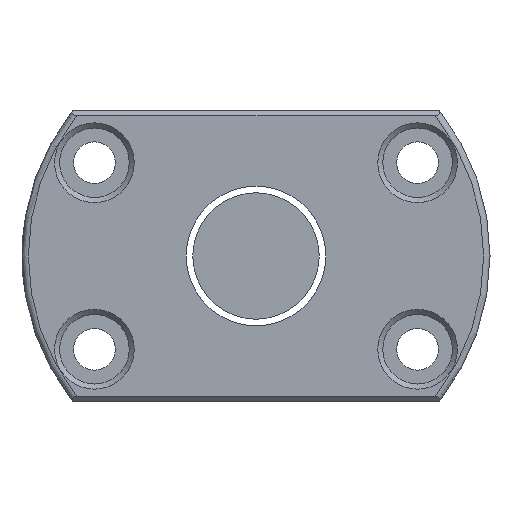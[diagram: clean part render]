
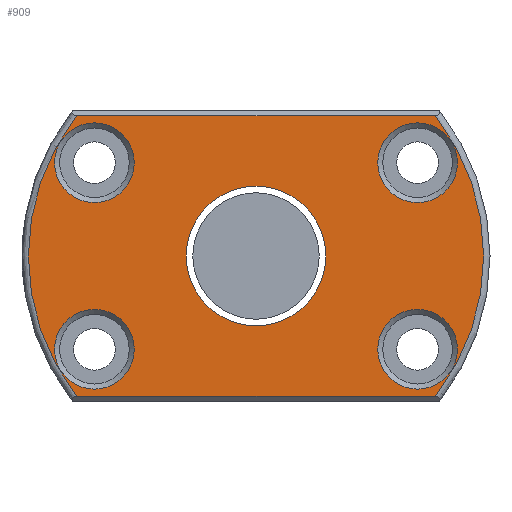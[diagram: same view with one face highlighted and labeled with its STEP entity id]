
A CAD part, left-side view. The second image highlights one B-rep face of the part: STEP entity #909.
In plain terms, the highlighted planar face has unit normal (-1, 0, 0).
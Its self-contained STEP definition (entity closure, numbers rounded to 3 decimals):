
#18 = CARTESIAN_POINT ( 'NONE',  ( -70., 0., -11.05 ) ) ;
#58 = CIRCLE ( 'NONE', #1315, 6.3 ) ;
#232 = DIRECTION ( 'NONE',  ( -1., 0., 0. ) ) ;
#253 = CARTESIAN_POINT ( 'NONE',  ( -70., -28.34, -22.2 ) ) ;
#258 = DIRECTION ( 'NONE',  ( 1., 0., 0. ) ) ;
#304 = EDGE_CURVE ( 'NONE', #1916, #1916, #1806, .T. ) ;
#424 = DIRECTION ( 'NONE',  ( 0., 0., 1. ) ) ;
#446 = CARTESIAN_POINT ( 'NONE',  ( -70., -27.695, -22.2 ) ) ;
#447 = DIRECTION ( 'NONE',  ( 1., 0., 0. ) ) ;
#477 = CARTESIAN_POINT ( 'NONE',  ( -70., 0., 0. ) ) ;
#478 = LINE ( 'NONE', #446, #1709 ) ;
#488 = CARTESIAN_POINT ( 'NONE',  ( -70., 25.548, 21.05 ) ) ;
#492 = CARTESIAN_POINT ( 'NONE',  ( -70., 27.695, 22.2 ) ) ;
#546 = CARTESIAN_POINT ( 'NONE',  ( -70., 28.34, 22.2 ) ) ;
#573 = CARTESIAN_POINT ( 'NONE',  ( -70., -28.34, 22.2 ) ) ;
#581 = VECTOR ( 'NONE', #1494, 1000. ) ;
#626 = CARTESIAN_POINT ( 'NONE',  ( -70., -25.548, -8.45 ) ) ;
#650 = PLANE ( 'NONE',  #1175 ) ;
#686 = FACE_BOUND ( 'NONE', #1072, .T. ) ;
#724 = VERTEX_POINT ( 'NONE', #546 ) ;
#732 = LINE ( 'NONE', #492, #581 ) ;
#814 = DIRECTION ( 'NONE',  ( 0., 0., 1. ) ) ;
#824 = ORIENTED_EDGE ( 'NONE', *, *, #2245, .T. ) ;
#887 = FACE_BOUND ( 'NONE', #1496, .T. ) ;
#909 = ADVANCED_FACE ( 'NONE', ( #943, #887, #1904, #686, #3229, #1939 ), #650, .T. ) ;
#938 = CARTESIAN_POINT ( 'NONE',  ( -70., -25.548, 21.05 ) ) ;
#943 = FACE_OUTER_BOUND ( 'NONE', #1294, .T. ) ;
#946 = CIRCLE ( 'NONE', #995, 11.05 ) ;
#973 = VERTEX_POINT ( 'NONE', #488 ) ;
#995 = AXIS2_PLACEMENT_3D ( 'NONE', #477, #258, #3029 ) ;
#996 = ORIENTED_EDGE ( 'NONE', *, *, #1597, .T. ) ;
#1007 = EDGE_CURVE ( 'NONE', #1661, #1413, #478, .T. ) ;
#1015 = DIRECTION ( 'NONE',  ( 1., 0., 0. ) ) ;
#1040 = CIRCLE ( 'NONE', #3219, 36. ) ;
#1072 = EDGE_LOOP ( 'NONE', ( #1814 ) ) ;
#1099 = CIRCLE ( 'NONE', #1213, 6.3 ) ;
#1175 = AXIS2_PLACEMENT_3D ( 'NONE', #2972, #232, #424 ) ;
#1213 = AXIS2_PLACEMENT_3D ( 'NONE', #1416, #1623, #3162 ) ;
#1215 = EDGE_CURVE ( 'NONE', #2184, #2184, #1652, .T. ) ;
#1234 = ORIENTED_EDGE ( 'NONE', *, *, #2384, .T. ) ;
#1263 = CIRCLE ( 'NONE', #2645, 36. ) ;
#1290 = EDGE_LOOP ( 'NONE', ( #824 ) ) ;
#1294 = EDGE_LOOP ( 'NONE', ( #996, #1234, #1716, #2646 ) ) ;
#1315 = AXIS2_PLACEMENT_3D ( 'NONE', #2046, #1015, #3097 ) ;
#1387 = CARTESIAN_POINT ( 'NONE',  ( -70., 25.548, -8.45 ) ) ;
#1413 = VERTEX_POINT ( 'NONE', #253 ) ;
#1416 = CARTESIAN_POINT ( 'NONE',  ( -70., -25.548, -14.75 ) ) ;
#1481 = CARTESIAN_POINT ( 'NONE',  ( -70., 0., 0. ) ) ;
#1494 = DIRECTION ( 'NONE',  ( 0., 1., 0. ) ) ;
#1496 = EDGE_LOOP ( 'NONE', ( #3007 ) ) ;
#1597 = EDGE_CURVE ( 'NONE', #1413, #2786, #1040, .T. ) ;
#1598 = AXIS2_PLACEMENT_3D ( 'NONE', #3045, #2569, #2768 ) ;
#1623 = DIRECTION ( 'NONE',  ( 1., 0., 0. ) ) ;
#1638 = DIRECTION ( 'NONE',  ( 0., 0., 1. ) ) ;
#1652 = CIRCLE ( 'NONE', #1598, 6.3 ) ;
#1661 = VERTEX_POINT ( 'NONE', #1857 ) ;
#1707 = AXIS2_PLACEMENT_3D ( 'NONE', #2923, #447, #1638 ) ;
#1709 = VECTOR ( 'NONE', #2922, 1000. ) ;
#1716 = ORIENTED_EDGE ( 'NONE', *, *, #2267, .T. ) ;
#1806 = CIRCLE ( 'NONE', #1707, 6.3 ) ;
#1814 = ORIENTED_EDGE ( 'NONE', *, *, #2829, .T. ) ;
#1839 = EDGE_CURVE ( 'NONE', #2899, #2899, #1099, .T. ) ;
#1857 = CARTESIAN_POINT ( 'NONE',  ( -70., 28.34, -22.2 ) ) ;
#1873 = DIRECTION ( 'NONE',  ( -1., 0., 0. ) ) ;
#1904 = FACE_BOUND ( 'NONE', #2086, .T. ) ;
#1916 = VERTEX_POINT ( 'NONE', #938 ) ;
#1939 = FACE_BOUND ( 'NONE', #1290, .T. ) ;
#1943 = ORIENTED_EDGE ( 'NONE', *, *, #304, .T. ) ;
#1993 = DIRECTION ( 'NONE',  ( -1., 0., 0. ) ) ;
#2016 = VERTEX_POINT ( 'NONE', #18 ) ;
#2046 = CARTESIAN_POINT ( 'NONE',  ( -70., 25.548, 14.75 ) ) ;
#2086 = EDGE_LOOP ( 'NONE', ( #1943 ) ) ;
#2138 = ORIENTED_EDGE ( 'NONE', *, *, #1215, .T. ) ;
#2184 = VERTEX_POINT ( 'NONE', #1387 ) ;
#2240 = DIRECTION ( 'NONE',  ( 0., 0., 1. ) ) ;
#2245 = EDGE_CURVE ( 'NONE', #2016, #2016, #946, .T. ) ;
#2267 = EDGE_CURVE ( 'NONE', #724, #1661, #1263, .T. ) ;
#2384 = EDGE_CURVE ( 'NONE', #2786, #724, #732, .T. ) ;
#2524 = EDGE_LOOP ( 'NONE', ( #2138 ) ) ;
#2569 = DIRECTION ( 'NONE',  ( 1., 0., 0. ) ) ;
#2645 = AXIS2_PLACEMENT_3D ( 'NONE', #1481, #1993, #2240 ) ;
#2646 = ORIENTED_EDGE ( 'NONE', *, *, #1007, .T. ) ;
#2768 = DIRECTION ( 'NONE',  ( 0., 0., 1. ) ) ;
#2786 = VERTEX_POINT ( 'NONE', #573 ) ;
#2829 = EDGE_CURVE ( 'NONE', #973, #973, #58, .T. ) ;
#2899 = VERTEX_POINT ( 'NONE', #626 ) ;
#2922 = DIRECTION ( 'NONE',  ( 0., -1., 0. ) ) ;
#2923 = CARTESIAN_POINT ( 'NONE',  ( -70., -25.548, 14.75 ) ) ;
#2972 = CARTESIAN_POINT ( 'NONE',  ( -70., 37., 0. ) ) ;
#3007 = ORIENTED_EDGE ( 'NONE', *, *, #1839, .T. ) ;
#3029 = DIRECTION ( 'NONE',  ( 0., 0., -1. ) ) ;
#3045 = CARTESIAN_POINT ( 'NONE',  ( -70., 25.548, -14.75 ) ) ;
#3080 = CARTESIAN_POINT ( 'NONE',  ( -70., 0., 0. ) ) ;
#3097 = DIRECTION ( 'NONE',  ( 0., 0., 1. ) ) ;
#3162 = DIRECTION ( 'NONE',  ( 0., 0., 1. ) ) ;
#3219 = AXIS2_PLACEMENT_3D ( 'NONE', #3080, #1873, #814 ) ;
#3229 = FACE_BOUND ( 'NONE', #2524, .T. ) ;
